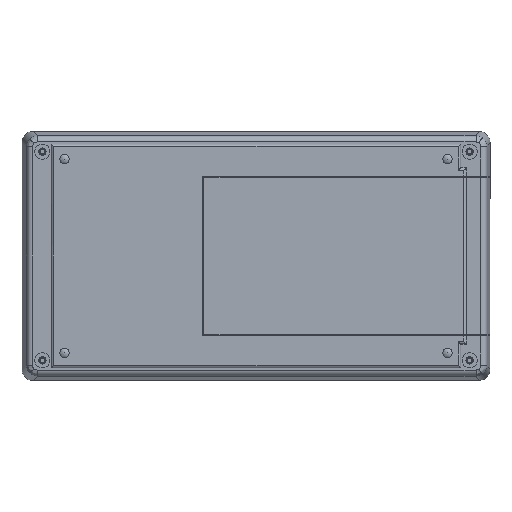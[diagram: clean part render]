
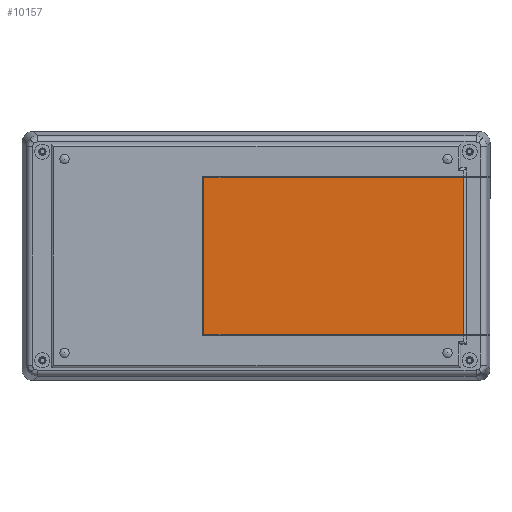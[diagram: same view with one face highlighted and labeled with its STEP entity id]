
A CAD part, front view. The second image highlights one B-rep face of the part: STEP entity #10157.
In plain terms, the highlighted planar face has unit normal (0, -1, 0).
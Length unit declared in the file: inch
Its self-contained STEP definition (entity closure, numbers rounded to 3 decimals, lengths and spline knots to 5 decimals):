
#1086 = LINE ( 'NONE', #13706, #9502 ) ;
#1437 = ORIENTED_EDGE ( 'NONE', *, *, #4133, .F. ) ;
#1694 = VECTOR ( 'NONE', #1949, 39.37008 ) ;
#1949 = DIRECTION ( 'NONE',  ( 0., 0., 1. ) ) ;
#2687 = CARTESIAN_POINT ( 'NONE',  ( 3.33268, -0.56299, 1.25984 ) ) ;
#3215 = ORIENTED_EDGE ( 'NONE', *, *, #10306, .F. ) ;
#3412 = FACE_OUTER_BOUND ( 'NONE', #9355, .T. ) ;
#3419 = EDGE_CURVE ( 'NONE', #9668, #8563, #1086, .T. ) ;
#4133 = EDGE_CURVE ( 'NONE', #9668, #12575, #12225, .T. ) ;
#4898 = DIRECTION ( 'NONE',  ( 0., -1., 0. ) ) ;
#5339 = CARTESIAN_POINT ( 'NONE',  ( 3.33268, -0.56299, -1.25984 ) ) ;
#5368 = LINE ( 'NONE', #2687, #11179 ) ;
#6360 = CARTESIAN_POINT ( 'NONE',  ( 3.33268, -0.56299, 1.25984 ) ) ;
#6444 = DIRECTION ( 'NONE',  ( -1., 0., 0. ) ) ;
#6452 = CARTESIAN_POINT ( 'NONE',  ( -0.83465, -0.56299, -1.25984 ) ) ;
#6482 = EDGE_CURVE ( 'NONE', #8004, #8563, #5368, .T. ) ;
#6861 = LINE ( 'NONE', #8515, #1694 ) ;
#7149 = DIRECTION ( 'NONE',  ( 0., 0., 1. ) ) ;
#8004 = VERTEX_POINT ( 'NONE', #11818 ) ;
#8314 = AXIS2_PLACEMENT_3D ( 'NONE', #9243, #4898, #12555 ) ;
#8515 = CARTESIAN_POINT ( 'NONE',  ( -0.83465, -0.56299, -1.25984 ) ) ;
#8563 = VERTEX_POINT ( 'NONE', #6360 ) ;
#9243 = CARTESIAN_POINT ( 'NONE',  ( -3.75197, -0.56299, -1.99606 ) ) ;
#9305 = VECTOR ( 'NONE', #6444, 39.37008 ) ;
#9355 = EDGE_LOOP ( 'NONE', ( #13515, #3215, #1437, #13273 ) ) ;
#9502 = VECTOR ( 'NONE', #7149, 39.37008 ) ;
#9668 = VERTEX_POINT ( 'NONE', #11653 ) ;
#10157 = ADVANCED_FACE ( 'NONE', ( #3412 ), #11442, .T. ) ;
#10306 = EDGE_CURVE ( 'NONE', #12575, #8004, #6861, .T. ) ;
#11179 = VECTOR ( 'NONE', #12666, 39.37008 ) ;
#11442 = PLANE ( 'NONE',  #8314 ) ;
#11653 = CARTESIAN_POINT ( 'NONE',  ( 3.33268, -0.56299, -1.25984 ) ) ;
#11818 = CARTESIAN_POINT ( 'NONE',  ( -0.83465, -0.56299, 1.25984 ) ) ;
#12225 = LINE ( 'NONE', #5339, #9305 ) ;
#12555 = DIRECTION ( 'NONE',  ( 0., 0., -1. ) ) ;
#12575 = VERTEX_POINT ( 'NONE', #6452 ) ;
#12666 = DIRECTION ( 'NONE',  ( 1., 0., 0. ) ) ;
#13273 = ORIENTED_EDGE ( 'NONE', *, *, #3419, .T. ) ;
#13515 = ORIENTED_EDGE ( 'NONE', *, *, #6482, .F. ) ;
#13706 = CARTESIAN_POINT ( 'NONE',  ( 3.33268, -0.56299, -1.99606 ) ) ;
